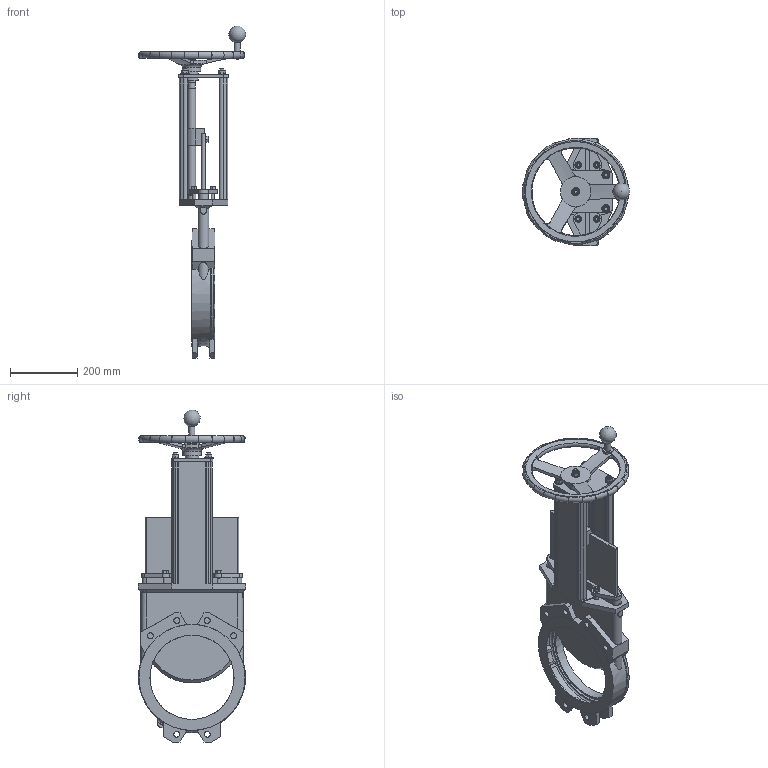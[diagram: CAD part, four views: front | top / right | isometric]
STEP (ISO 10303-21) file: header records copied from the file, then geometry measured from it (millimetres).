
FILE_DESCRIPTION(('STEP AP203'),'1');
FILE_NAME('G:/KONSTRUK/3-d block för CD/MV VALVE/HAND WHEEL/MV250-PN10-HW.stp','2010-04-09T05:58:23',(' '),(' '),'Spatial InterOp 3D',' ',' ');
FILE_SCHEMA(('CONFIG_CONTROL_DESIGN'));
Length unit declared in the file: metre
Products named in the file (1): 1
Bounding box: 318.75 x 320 x 986.49 mm (x, y, z)
Volume: 5988511.4 mm3; surface area: 1489973.7 mm2
Topology: 1 solids, 11 shells, 851 faces, 2134 edges, 1376 vertices
Faces by surface type: plane 438, cylinder 204, cone 170, torus 32, bspline 6, sphere 1
Full cylindrical faces by diameter (mm): 6.75 x2, 10 x5, 10.25 x9, 10.791 x4, 12 x11, 12.793 x5, 13 x4, 13.435 x1, 15 x5, 17.5 x12, 18 x1, 19.715 x4, 20 x2, 23 x1, 24 x7, 25.14 x1, 26.4 x1, 26.5 x1, 27 x1, 40 x2, 55 x1, 250 x2, 260 x1, 276 x1, 294 x1, 297 x1, 298 x1, 303 x1, 315 x1, 319 x1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
Entity records: 28192 total; most frequent: CARTESIAN_POINT 8754, DIRECTION 3995, ORIENTED_EDGE 3872, EDGE_CURVE 1936, AXIS2_PLACEMENT_3D 1573, VERTEX_POINT 1311, EDGE_LOOP 1101, FACE_OUTER_BOUND 944
